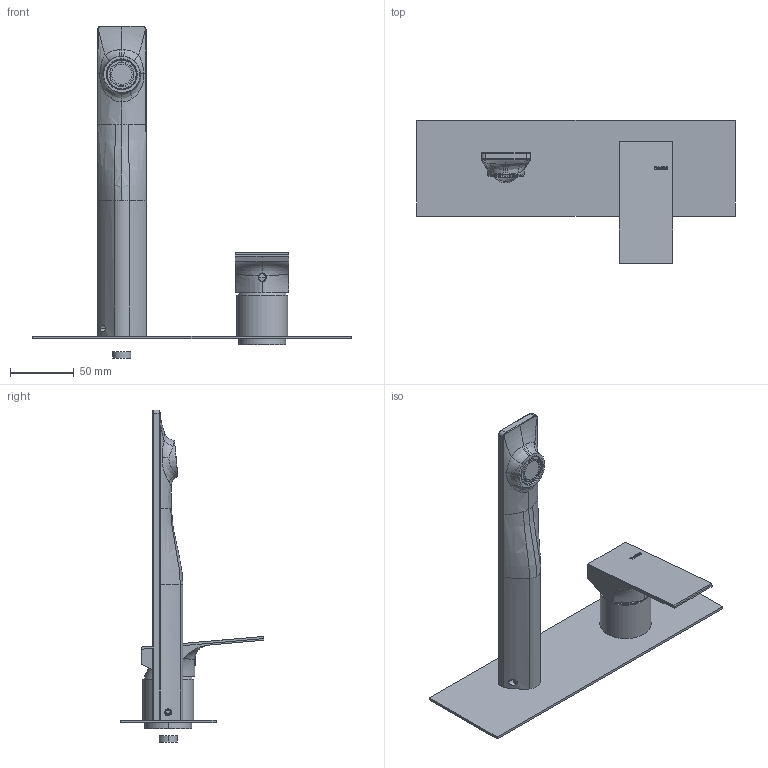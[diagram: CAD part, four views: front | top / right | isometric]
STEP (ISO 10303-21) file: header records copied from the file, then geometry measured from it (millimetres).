
FILE_DESCRIPTION((''),'2;1');
FILE_NAME('87548A_ASM','2024-12-18T16:18:58',('volponeff'),(''),'CREO PARAMETRIC BY PTC INC, 2022014','CREO PARAMETRIC BY PTC INC, 2022014','');
FILE_SCHEMA(('CONFIG_CONTROL_DESIGN'));
Products named in the file (23): D507000532_AF0; D451D50351_AF0; D451D50353_AF0; A503E90162_AF0; P507000561_AF0_ASM; D517C90325_AF0; A503B60010; A503B60025_AF0; P517C90627_AF0_ASM; D458C70664_AF0; A503B60092_AF0; A536A80115; A450000057; P458000678_AF0_ASM; D465000187_AF0; A302D40038_AF0; D494C90058; D460000139; D500001404_GEN; D511000162; A536A80109; P765XX0570_ASM; 87548A_ASM
Assembly tree (23 placements, depth 3):
  87548A_ASM
    P507000561_AF0_ASM
      D507000532_AF0
      D451D50351_AF0
      D451D50353_AF0
      A503E90162_AF0
    P517C90627_AF0_ASM
      D517C90325_AF0
      A503B60010  x2
      A503B60025_AF0
    P458000678_AF0_ASM
      D458C70664_AF0
      A503B60092_AF0
      A536A80115
      A450000057
    D465000187_AF0
    A302D40038_AF0
    D494C90058
    D460000139
    D500001404_GEN
    P765XX0570_ASM
      D511000162
      A536A80109
Bounding box: 250 x 112.34 x 260.2 mm (x, y, z)
Volume: 206336.6 mm3; surface area: 128811.6 mm2
Topology: 16 solids, 27 shells, 1063 faces, 2878 edges, 1875 vertices
Faces by surface type: cylinder 361, plane 355, torus 96, bspline 89, extrusion 72, cone 70, sphere 20
Entity records: 53376 total; most frequent: CARTESIAN_POINT 26752, ORIENTED_EDGE 5677, DIRECTION 5189, EDGE_CURVE 2864, AXIS2_PLACEMENT_3D 1909, VERTEX_POINT 1871, VECTOR 1371, LINE 1299
